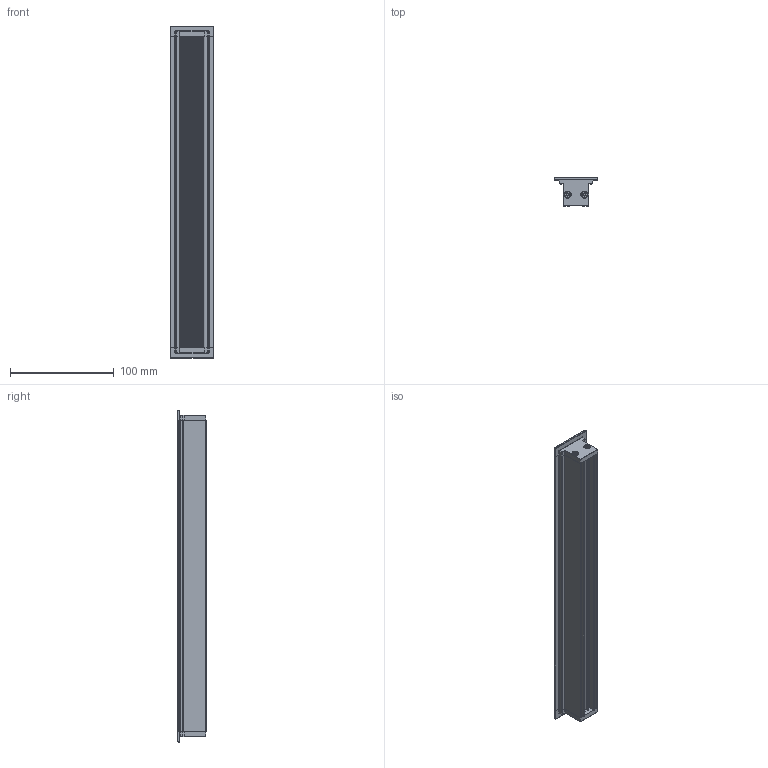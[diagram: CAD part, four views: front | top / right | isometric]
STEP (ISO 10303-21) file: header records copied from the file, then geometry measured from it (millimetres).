
FILE_DESCRIPTION (( 'STEP AP214' ), '1' );
FILE_NAME ('Dot 10.STEP', '2017-10-20T10:44:19', ( 'Ofitecnic3' ), ( 'Microsoft' ), 'SwSTEP 2.0', 'SolidWorks 2016', '' );
FILE_SCHEMA (( 'AUTOMOTIVE_DESIGN' ));
Length unit declared in the file: millimetre
Products named in the file (6): M3  BIM-Avellanedo Torx_8; Dot  10; Disipador BIM (DOT)_300 M3; Led BIM (DOT)_10; Perfil Tapa  BIM(SYSTEM CLICK)_EX10; Tapa Lateral  BIM(DOT-DOT.TILT)_Tapa Emp.
Assembly tree (9 placements, depth 2):
  Dot  10
    Disipador BIM (DOT)_300 M3
    Perfil Tapa  BIM(SYSTEM CLICK)_EX10
    Led BIM (DOT)_10
    Tapa Lateral  BIM(DOT-DOT.TILT)_Tapa Emp.  x2
    M3  BIM-Avellanedo Torx_8  x4
Bounding box: 42 x 27.3 x 320 mm (x, y, z)
Volume: 182620.1 mm3; surface area: 88100.5 mm2
Topology: 18 solids, 18 shells, 424 faces, 1032 edges, 620 vertices
Faces by surface type: cylinder 196, plane 112, sphere 40, torus 40, cone 36
Entity records: 7712 total; most frequent: DIRECTION 1405, CARTESIAN_POINT 1255, ORIENTED_EDGE 1202, EDGE_CURVE 601, AXIS2_PLACEMENT_3D 547, VERTEX_POINT 381, VECTOR 311, LINE 311
